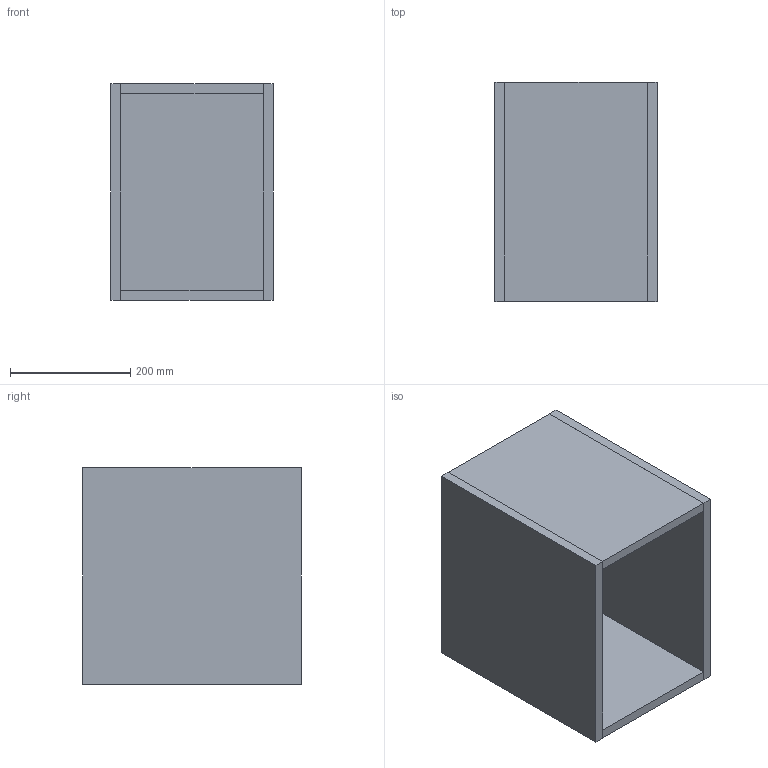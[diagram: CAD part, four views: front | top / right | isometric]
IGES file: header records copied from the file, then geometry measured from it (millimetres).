
Start section: Data from Parasolid IGES Translator 19.0.9, Copyright(c) 2006 Siemens PL M Software. All Rights Reserved.
Global section: file name: noorth-SI-H 36 D 38,8 W 27_8340.igs; native system: By Siemens PLM Incorporated; preprocessor: XPlus GENERIC/IGES 19.0.9; author: Noname; organization: Noname; date: 20200601.091751; units: metre
Bounding box: 270.01 x 364.06 x 360 mm (x, y, z)
Volume: 7189505.2 mm3; surface area: 1115012.5 mm2
Topology: 5 solids, 5 shells, 30 faces, 60 edges, 40 vertices
Faces by surface type: plane 30
